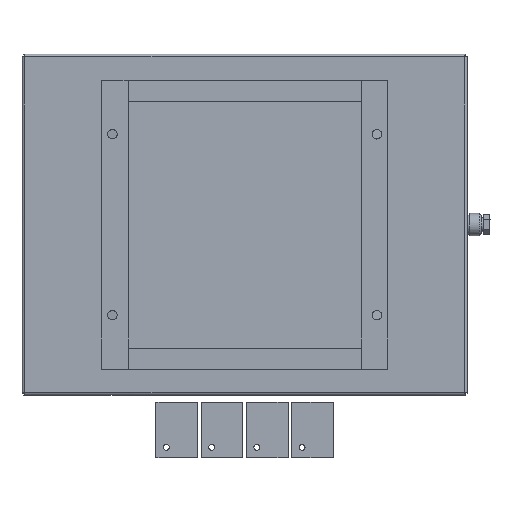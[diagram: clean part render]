
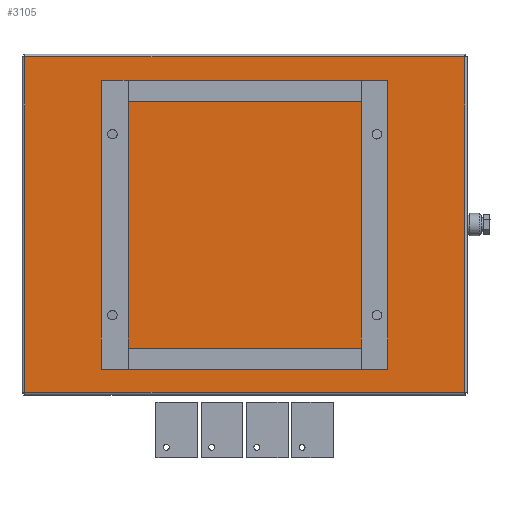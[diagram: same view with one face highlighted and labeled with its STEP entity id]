
A CAD part, front view. The second image highlights one B-rep face of the part: STEP entity #3105.
In plain terms, the highlighted planar face has unit normal (0, -1, 0).
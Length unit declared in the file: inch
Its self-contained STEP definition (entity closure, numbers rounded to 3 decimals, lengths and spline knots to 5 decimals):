
#49 = CARTESIAN_POINT ( 'NONE',  ( 0., -0.1345, 0. ) ) ;
#75 = CARTESIAN_POINT ( 'NONE',  ( 0.197, -0.1345, -24.303 ) ) ;
#248 = LINE ( 'NONE', #2418, #1964 ) ;
#504 = CARTESIAN_POINT ( 'NONE',  ( 0.197, -0.1345, -0.13457 ) ) ;
#592 = EDGE_CURVE ( 'NONE', #3851, #3864, #2433, .T. ) ;
#761 = VECTOR ( 'NONE', #2451, 39.37008 ) ;
#830 = ORIENTED_EDGE ( 'NONE', *, *, #2191, .T. ) ;
#1098 = EDGE_CURVE ( 'NONE', #2256, #3851, #1816, .T. ) ;
#1418 = DIRECTION ( 'NONE',  ( 0., 0., -1. ) ) ;
#1423 = PLANE ( 'NONE',  #3951 ) ;
#1496 = FACE_OUTER_BOUND ( 'NONE', #3417, .T. ) ;
#1589 = ORIENTED_EDGE ( 'NONE', *, *, #592, .T. ) ;
#1601 = CARTESIAN_POINT ( 'NONE',  ( 0.197, -0.1345, -0.197 ) ) ;
#1669 = CARTESIAN_POINT ( 'NONE',  ( 31.86543, -0.1345, -0.197 ) ) ;
#1735 = DIRECTION ( 'NONE',  ( 0., -1., 0. ) ) ;
#1781 = ORIENTED_EDGE ( 'NONE', *, *, #1098, .T. ) ;
#1816 = LINE ( 'NONE', #1669, #3616 ) ;
#1825 = DIRECTION ( 'NONE',  ( 0., 0., 1. ) ) ;
#1881 = EDGE_CURVE ( 'NONE', #3476, #2256, #248, .T. ) ;
#1964 = VECTOR ( 'NONE', #1825, 39.37008 ) ;
#2191 = EDGE_CURVE ( 'NONE', #3864, #3476, #3933, .T. ) ;
#2256 = VERTEX_POINT ( 'NONE', #3332 ) ;
#2418 = CARTESIAN_POINT ( 'NONE',  ( 31.803, -0.1345, -24.36543 ) ) ;
#2433 = LINE ( 'NONE', #504, #3489 ) ;
#2451 = DIRECTION ( 'NONE',  ( 1., 0., 0. ) ) ;
#3091 = CARTESIAN_POINT ( 'NONE',  ( 31.803, -0.1345, -24.303 ) ) ;
#3105 = ADVANCED_FACE ( 'NONE', ( #1496 ), #1423, .T. ) ;
#3258 = DIRECTION ( 'NONE',  ( 0., 0., -1. ) ) ;
#3295 = ORIENTED_EDGE ( 'NONE', *, *, #1881, .T. ) ;
#3332 = CARTESIAN_POINT ( 'NONE',  ( 31.803, -0.1345, -0.197 ) ) ;
#3417 = EDGE_LOOP ( 'NONE', ( #830, #3295, #1781, #1589 ) ) ;
#3476 = VERTEX_POINT ( 'NONE', #3091 ) ;
#3489 = VECTOR ( 'NONE', #1418, 39.37008 ) ;
#3616 = VECTOR ( 'NONE', #3844, 39.37008 ) ;
#3833 = CARTESIAN_POINT ( 'NONE',  ( 0.13457, -0.1345, -24.303 ) ) ;
#3844 = DIRECTION ( 'NONE',  ( -1., 0., 0. ) ) ;
#3851 = VERTEX_POINT ( 'NONE', #1601 ) ;
#3864 = VERTEX_POINT ( 'NONE', #75 ) ;
#3933 = LINE ( 'NONE', #3833, #761 ) ;
#3951 = AXIS2_PLACEMENT_3D ( 'NONE', #49, #1735, #3258 ) ;
